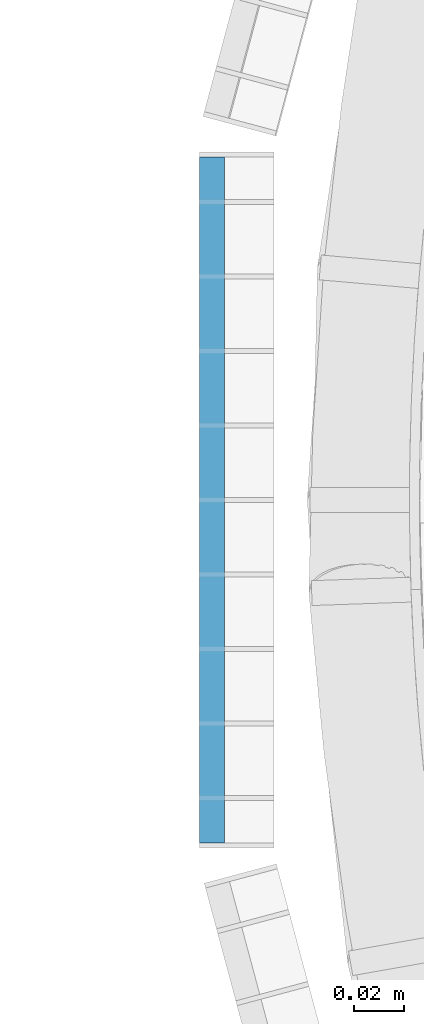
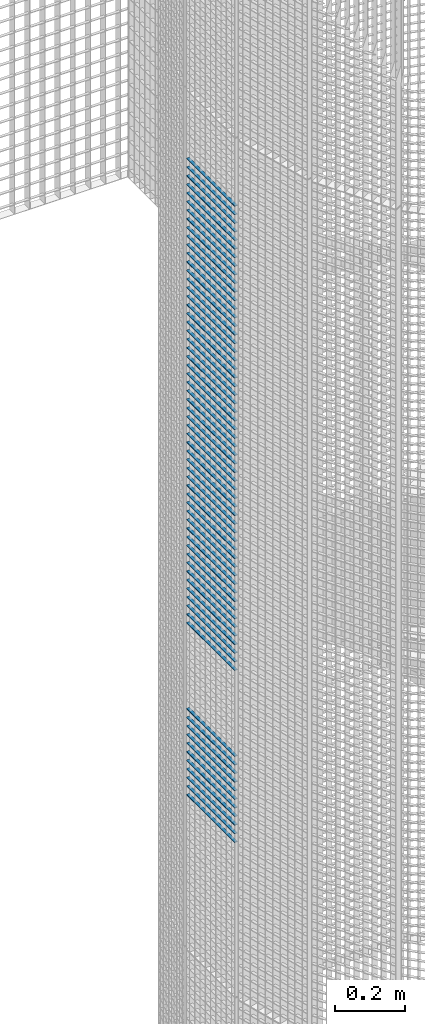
# One storey, part 211 of 1183: 66 beams, 1 element without a shape of its own.
"""IFC2X3 building model written with IfcOpenShell, lengths in millimetres."""

from ifc_helpers import new_model, si_unit, frame, origin_with_axes, origin_2d_with_axis, place, context, subcontext, project, spatial, rectangle, extrude, material, type_object, element, aggregate, save


model = new_model("IFC2X3")

# Units and contexts
model_context = context("Model", 3, precision=1e-05, world=origin_with_axes())
body_context = subcontext(model_context, "Body", "Model", "MODEL_VIEW")
ifc_project = project(units=[si_unit("LENGTHUNIT", "METRE", prefix="MILLI"), si_unit("AREAUNIT", "SQUARE_METRE"), si_unit("VOLUMEUNIT", "CUBIC_METRE"), si_unit("MASSUNIT", "GRAM", prefix="KILO"), si_unit("TIMEUNIT", "SECOND"), si_unit("PLANEANGLEUNIT", "RADIAN"), si_unit("SOLIDANGLEUNIT", "STERADIAN"), si_unit("THERMODYNAMICTEMPERATUREUNIT", "DEGREE_CELSIUS"), si_unit("LUMINOUSINTENSITYUNIT", "LUMEN")], contexts=[model_context])

# Site, building, storey
site_placement = place(None, origin_with_axes())
site = spatial("IfcSite", under=ifc_project, at=site_placement, Name="Undefined", CompositionType="ELEMENT")
building_placement = place(site_placement, origin_with_axes())
building = spatial("IfcBuilding", under=site, at=building_placement, Name="Undefined", CompositionType="ELEMENT")
storey_placement = place(building_placement, origin_with_axes())
storey = spatial("IfcBuildingStorey", under=building, at=storey_placement, Name="Undefined", CompositionType="ELEMENT", Elevation=0.0)

# Assembly, beams
assembly_placement = place(storey_placement, origin_with_axes())
assembly = element("IfcElementAssembly", 1, at=assembly_placement, inside=storey, Name="BORDURE", AssemblyPlace="NOTDEFINED", PredefinedType="NOTDEFINED")
ifc_material = material(Name="STEEL/S235JR")
beam_type = type_object("IfcBeamType", Name="PL2*10", PredefinedType="NOTDEFINED")
beam_1_placement = place(assembly_placement, frame((-1113.47999999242, 137.996003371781, 5760.0), z_axis=(-1.0, 0.0, 0.0), x_axis=(0.0, -1.0, 0.0)))
beam_1 = element("IfcBeam", 2, at=beam_1_placement, type_object=beam_type, material=ifc_material, Name="ENTRETOISE", context=body_context, shape_type="SweptSolid", body=[
    extrude(rectangle(XDim=2.0, YDim=10.0, at=origin_2d_with_axis()), frame((275.999999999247, 9.09494701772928e-13, 1.53210777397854e-14), z_axis=(-1.0, 0.0, 0.0), x_axis=(0.0, -1.0, 0.0)), (0.0, 0.0, 1.0), 276.0),
])
beam_2_placement = place(assembly_placement, frame((-1113.47999999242, 137.996003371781, 5730.0), z_axis=(-1.0, 0.0, 0.0), x_axis=(0.0, -1.0, 0.0)))
beam_2 = element("IfcBeam", 3, at=beam_2_placement, type_object=beam_type, material=ifc_material, Name="ENTRETOISE", context=body_context, shape_type="SweptSolid", body=[
    extrude(rectangle(XDim=2.0, YDim=10.0, at=origin_2d_with_axis()), frame((275.999999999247, 9.09494701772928e-13, 1.53210777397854e-14), z_axis=(-1.0, 0.0, 0.0), x_axis=(0.0, -1.0, 0.0)), (0.0, 0.0, 1.0), 276.0),
])
beam_3_placement = place(assembly_placement, frame((-1113.47999999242, 137.996003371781, 5700.0), z_axis=(-1.0, 0.0, 0.0), x_axis=(0.0, -1.0, 0.0)))
beam_3 = element("IfcBeam", 4, at=beam_3_placement, type_object=beam_type, material=ifc_material, Name="ENTRETOISE", context=body_context, shape_type="SweptSolid", body=[
    extrude(rectangle(XDim=2.0, YDim=10.0, at=origin_2d_with_axis()), frame((275.999999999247, 9.09494701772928e-13, 1.53210777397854e-14), z_axis=(-1.0, 0.0, 0.0), x_axis=(0.0, -1.0, 0.0)), (0.0, 0.0, 1.0), 276.0),
])
beam_4_placement = place(assembly_placement, frame((-1113.47999999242, 137.996003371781, 5670.0), z_axis=(-1.0, 0.0, 0.0), x_axis=(0.0, -1.0, 0.0)))
beam_4 = element("IfcBeam", 5, at=beam_4_placement, type_object=beam_type, material=ifc_material, Name="ENTRETOISE", context=body_context, shape_type="SweptSolid", body=[
    extrude(rectangle(XDim=2.0, YDim=10.0, at=origin_2d_with_axis()), frame((275.999999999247, 9.09494701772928e-13, 1.53210777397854e-14), z_axis=(-1.0, 0.0, 0.0), x_axis=(0.0, -1.0, 0.0)), (0.0, 0.0, 1.0), 276.0),
])
beam_5_placement = place(assembly_placement, frame((-1113.47999999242, 137.99600337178, 5640.0), z_axis=(-1.0, 0.0, 0.0), x_axis=(0.0, -1.0, 0.0)))
beam_5 = element("IfcBeam", 6, at=beam_5_placement, type_object=beam_type, material=ifc_material, Name="ENTRETOISE", context=body_context, shape_type="SweptSolid", body=[
    extrude(rectangle(XDim=2.0, YDim=10.0, at=origin_2d_with_axis()), frame((275.999999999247, 9.09494701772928e-13, 1.53210777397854e-14), z_axis=(-1.0, 0.0, 0.0), x_axis=(0.0, -1.0, 0.0)), (0.0, 0.0, 1.0), 276.0),
])
beam_6_placement = place(assembly_placement, frame((-1113.47999999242, 137.99600337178, 5610.0), z_axis=(-1.0, 0.0, 0.0), x_axis=(0.0, -1.0, 0.0)))
beam_6 = element("IfcBeam", 7, at=beam_6_placement, type_object=beam_type, material=ifc_material, Name="ENTRETOISE", context=body_context, shape_type="SweptSolid", body=[
    extrude(rectangle(XDim=2.0, YDim=10.0, at=origin_2d_with_axis()), frame((275.999999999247, 9.09494701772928e-13, 1.53210777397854e-14), z_axis=(-1.0, 0.0, 0.0), x_axis=(0.0, -1.0, 0.0)), (0.0, 0.0, 1.0), 276.0),
])
beam_7_placement = place(assembly_placement, frame((-1113.47999999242, 137.99600337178, 5580.0), z_axis=(-1.0, 0.0, 0.0), x_axis=(0.0, -1.0, 0.0)))
beam_7 = element("IfcBeam", 8, at=beam_7_placement, type_object=beam_type, material=ifc_material, Name="ENTRETOISE", context=body_context, shape_type="SweptSolid", body=[
    extrude(rectangle(XDim=2.0, YDim=10.0, at=origin_2d_with_axis()), frame((275.999999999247, 9.09494701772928e-13, 1.53210777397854e-14), z_axis=(-1.0, 0.0, 0.0), x_axis=(0.0, -1.0, 0.0)), (0.0, 0.0, 1.0), 276.0),
])
beam_8_placement = place(assembly_placement, frame((-1113.47999999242, 137.99600337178, 5550.0), z_axis=(-1.0, 0.0, 0.0), x_axis=(0.0, -1.0, 0.0)))
beam_8 = element("IfcBeam", 9, at=beam_8_placement, type_object=beam_type, material=ifc_material, Name="ENTRETOISE", context=body_context, shape_type="SweptSolid", body=[
    extrude(rectangle(XDim=2.0, YDim=10.0, at=origin_2d_with_axis()), frame((275.999999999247, 9.09494701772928e-13, 1.53210777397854e-14), z_axis=(-1.0, 0.0, 0.0), x_axis=(0.0, -1.0, 0.0)), (0.0, 0.0, 1.0), 276.0),
])
beam_9_placement = place(assembly_placement, frame((-1113.47999999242, 137.99600337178, 5520.0), z_axis=(-1.0, 0.0, 0.0), x_axis=(0.0, -1.0, 0.0)))
beam_9 = element("IfcBeam", 10, at=beam_9_placement, type_object=beam_type, material=ifc_material, Name="ENTRETOISE", context=body_context, shape_type="SweptSolid", body=[
    extrude(rectangle(XDim=2.0, YDim=10.0, at=origin_2d_with_axis()), frame((275.999999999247, 9.09494701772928e-13, 1.53210777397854e-14), z_axis=(-1.0, 0.0, 0.0), x_axis=(0.0, -1.0, 0.0)), (0.0, 0.0, 1.0), 276.0),
])
beam_10_placement = place(assembly_placement, frame((-1113.47999999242, 137.99600337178, 5490.0), z_axis=(-1.0, 0.0, 0.0), x_axis=(0.0, -1.0, 0.0)))
beam_10 = element("IfcBeam", 11, at=beam_10_placement, type_object=beam_type, material=ifc_material, Name="ENTRETOISE", context=body_context, shape_type="SweptSolid", body=[
    extrude(rectangle(XDim=2.0, YDim=10.0, at=origin_2d_with_axis()), frame((275.999999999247, 9.09494701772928e-13, 1.53210777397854e-14), z_axis=(-1.0, 0.0, 0.0), x_axis=(0.0, -1.0, 0.0)), (0.0, 0.0, 1.0), 276.0),
])
beam_11_placement = place(assembly_placement, frame((-1113.47999999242, 137.99600337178, 5460.0), z_axis=(-1.0, 0.0, 0.0), x_axis=(0.0, -1.0, 0.0)))
beam_11 = element("IfcBeam", 12, at=beam_11_placement, type_object=beam_type, material=ifc_material, Name="ENTRETOISE", context=body_context, shape_type="SweptSolid", body=[
    extrude(rectangle(XDim=2.0, YDim=10.0, at=origin_2d_with_axis()), frame((275.999999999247, 9.09494701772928e-13, 1.53210777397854e-14), z_axis=(-1.0, 0.0, 0.0), x_axis=(0.0, -1.0, 0.0)), (0.0, 0.0, 1.0), 276.0),
])
beam_12_placement = place(assembly_placement, frame((-1113.47999999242, 137.99600337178, 5430.0), z_axis=(-1.0, 0.0, 0.0), x_axis=(0.0, -1.0, 0.0)))
beam_12 = element("IfcBeam", 13, at=beam_12_placement, type_object=beam_type, material=ifc_material, Name="ENTRETOISE", context=body_context, shape_type="SweptSolid", body=[
    extrude(rectangle(XDim=2.0, YDim=10.0, at=origin_2d_with_axis()), frame((275.999999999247, 9.09494701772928e-13, 1.53210777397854e-14), z_axis=(-1.0, 0.0, 0.0), x_axis=(0.0, -1.0, 0.0)), (0.0, 0.0, 1.0), 276.0),
])
beam_13_placement = place(assembly_placement, frame((-1113.47999999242, 137.99600337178, 5400.0), z_axis=(-1.0, 0.0, 0.0), x_axis=(0.0, -1.0, 0.0)))
beam_13 = element("IfcBeam", 14, at=beam_13_placement, type_object=beam_type, material=ifc_material, Name="ENTRETOISE", context=body_context, shape_type="SweptSolid", body=[
    extrude(rectangle(XDim=2.0, YDim=10.0, at=origin_2d_with_axis()), frame((275.999999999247, 9.09494701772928e-13, 1.53210777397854e-14), z_axis=(-1.0, 0.0, 0.0), x_axis=(0.0, -1.0, 0.0)), (0.0, 0.0, 1.0), 276.0),
])
beam_14_placement = place(assembly_placement, frame((-1113.47999999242, 137.996003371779, 5370.0), z_axis=(-1.0, 0.0, 0.0), x_axis=(0.0, -1.0, 0.0)))
beam_14 = element("IfcBeam", 15, at=beam_14_placement, type_object=beam_type, material=ifc_material, Name="ENTRETOISE", context=body_context, shape_type="SweptSolid", body=[
    extrude(rectangle(XDim=2.0, YDim=10.0, at=origin_2d_with_axis()), frame((275.999999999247, 9.09494701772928e-13, 1.53210777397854e-14), z_axis=(-1.0, 0.0, 0.0), x_axis=(0.0, -1.0, 0.0)), (0.0, 0.0, 1.0), 276.0),
])
beam_15_placement = place(assembly_placement, frame((-1113.47999999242, 137.996003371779, 5340.0), z_axis=(-1.0, 0.0, 0.0), x_axis=(0.0, -1.0, 0.0)))
beam_15 = element("IfcBeam", 16, at=beam_15_placement, type_object=beam_type, material=ifc_material, Name="ENTRETOISE", context=body_context, shape_type="SweptSolid", body=[
    extrude(rectangle(XDim=2.0, YDim=10.0, at=origin_2d_with_axis()), frame((275.999999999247, 9.09494701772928e-13, 1.53210777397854e-14), z_axis=(-1.0, 0.0, 0.0), x_axis=(0.0, -1.0, 0.0)), (0.0, 0.0, 1.0), 276.0),
])
beam_16_placement = place(assembly_placement, frame((-1113.47999999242, 137.996003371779, 5310.0), z_axis=(-1.0, 0.0, 0.0), x_axis=(0.0, -1.0, 0.0)))
beam_16 = element("IfcBeam", 17, at=beam_16_placement, type_object=beam_type, material=ifc_material, Name="ENTRETOISE", context=body_context, shape_type="SweptSolid", body=[
    extrude(rectangle(XDim=2.0, YDim=10.0, at=origin_2d_with_axis()), frame((275.999999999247, 9.09494701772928e-13, 1.53210777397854e-14), z_axis=(-1.0, 0.0, 0.0), x_axis=(0.0, -1.0, 0.0)), (0.0, 0.0, 1.0), 276.0),
])
beam_17_placement = place(assembly_placement, frame((-1113.47999999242, 137.996003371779, 5280.0), z_axis=(-1.0, 0.0, 0.0), x_axis=(0.0, -1.0, 0.0)))
beam_17 = element("IfcBeam", 18, at=beam_17_placement, type_object=beam_type, material=ifc_material, Name="ENTRETOISE", context=body_context, shape_type="SweptSolid", body=[
    extrude(rectangle(XDim=2.0, YDim=10.0, at=origin_2d_with_axis()), frame((275.999999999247, 9.09494701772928e-13, 1.53210777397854e-14), z_axis=(-1.0, 0.0, 0.0), x_axis=(0.0, -1.0, 0.0)), (0.0, 0.0, 1.0), 276.0),
])
beam_18_placement = place(assembly_placement, frame((-1113.47999999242, 137.996003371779, 5250.0), z_axis=(-1.0, 0.0, 0.0), x_axis=(0.0, -1.0, 0.0)))
beam_18 = element("IfcBeam", 19, at=beam_18_placement, type_object=beam_type, material=ifc_material, Name="ENTRETOISE", context=body_context, shape_type="SweptSolid", body=[
    extrude(rectangle(XDim=2.0, YDim=10.0, at=origin_2d_with_axis()), frame((275.999999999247, 9.09494701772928e-13, 1.53210777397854e-14), z_axis=(-1.0, 0.0, 0.0), x_axis=(0.0, -1.0, 0.0)), (0.0, 0.0, 1.0), 276.0),
])
beam_19_placement = place(assembly_placement, frame((-1113.47999999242, 137.996003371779, 5220.0), z_axis=(-1.0, 0.0, 0.0), x_axis=(0.0, -1.0, 0.0)))
beam_19 = element("IfcBeam", 20, at=beam_19_placement, type_object=beam_type, material=ifc_material, Name="ENTRETOISE", context=body_context, shape_type="SweptSolid", body=[
    extrude(rectangle(XDim=2.0, YDim=10.0, at=origin_2d_with_axis()), frame((275.999999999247, 9.09494701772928e-13, 1.53210777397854e-14), z_axis=(-1.0, 0.0, 0.0), x_axis=(0.0, -1.0, 0.0)), (0.0, 0.0, 1.0), 276.0),
])
beam_20_placement = place(assembly_placement, frame((-1113.47999999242, 137.996003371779, 5190.0), z_axis=(-1.0, 0.0, 0.0), x_axis=(0.0, -1.0, 0.0)))
beam_20 = element("IfcBeam", 21, at=beam_20_placement, type_object=beam_type, material=ifc_material, Name="ENTRETOISE", context=body_context, shape_type="SweptSolid", body=[
    extrude(rectangle(XDim=2.0, YDim=10.0, at=origin_2d_with_axis()), frame((275.999999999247, 9.09494701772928e-13, 1.53210777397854e-14), z_axis=(-1.0, 0.0, 0.0), x_axis=(0.0, -1.0, 0.0)), (0.0, 0.0, 1.0), 276.0),
])
beam_21_placement = place(assembly_placement, frame((-1113.47999999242, 137.996003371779, 5160.0), z_axis=(-1.0, 0.0, 0.0), x_axis=(0.0, -1.0, 0.0)))
beam_21 = element("IfcBeam", 22, at=beam_21_placement, type_object=beam_type, material=ifc_material, Name="ENTRETOISE", context=body_context, shape_type="SweptSolid", body=[
    extrude(rectangle(XDim=2.0, YDim=10.0, at=origin_2d_with_axis()), frame((275.999999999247, 9.09494701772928e-13, 1.53210777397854e-14), z_axis=(-1.0, 0.0, 0.0), x_axis=(0.0, -1.0, 0.0)), (0.0, 0.0, 1.0), 276.0),
])
beam_22_placement = place(assembly_placement, frame((-1113.47999999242, 137.996003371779, 5130.0), z_axis=(-1.0, 0.0, 0.0), x_axis=(0.0, -1.0, 0.0)))
beam_22 = element("IfcBeam", 23, at=beam_22_placement, type_object=beam_type, material=ifc_material, Name="ENTRETOISE", context=body_context, shape_type="SweptSolid", body=[
    extrude(rectangle(XDim=2.0, YDim=10.0, at=origin_2d_with_axis()), frame((275.999999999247, 9.09494701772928e-13, 1.53210777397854e-14), z_axis=(-1.0, 0.0, 0.0), x_axis=(0.0, -1.0, 0.0)), (0.0, 0.0, 1.0), 276.0),
])
beam_23_placement = place(assembly_placement, frame((-1113.47999999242, 137.996003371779, 5100.0), z_axis=(-1.0, 0.0, 0.0), x_axis=(0.0, -1.0, 0.0)))
beam_23 = element("IfcBeam", 24, at=beam_23_placement, type_object=beam_type, material=ifc_material, Name="ENTRETOISE", context=body_context, shape_type="SweptSolid", body=[
    extrude(rectangle(XDim=2.0, YDim=10.0, at=origin_2d_with_axis()), frame((275.999999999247, 9.09494701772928e-13, 1.53210777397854e-14), z_axis=(-1.0, 0.0, 0.0), x_axis=(0.0, -1.0, 0.0)), (0.0, 0.0, 1.0), 276.0),
])
beam_24_placement = place(assembly_placement, frame((-1113.47999999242, 137.996003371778, 5070.0), z_axis=(-1.0, 0.0, 0.0), x_axis=(0.0, -1.0, 0.0)))
beam_24 = element("IfcBeam", 25, at=beam_24_placement, type_object=beam_type, material=ifc_material, Name="ENTRETOISE", context=body_context, shape_type="SweptSolid", body=[
    extrude(rectangle(XDim=2.0, YDim=10.0, at=origin_2d_with_axis()), frame((275.999999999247, 9.09494701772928e-13, 1.53210777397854e-14), z_axis=(-1.0, 0.0, 0.0), x_axis=(0.0, -1.0, 0.0)), (0.0, 0.0, 1.0), 276.0),
])
beam_25_placement = place(assembly_placement, frame((-1113.47999999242, 137.996003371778, 5040.0), z_axis=(-1.0, 0.0, 0.0), x_axis=(0.0, -1.0, 0.0)))
beam_25 = element("IfcBeam", 26, at=beam_25_placement, type_object=beam_type, material=ifc_material, Name="ENTRETOISE", context=body_context, shape_type="SweptSolid", body=[
    extrude(rectangle(XDim=2.0, YDim=10.0, at=origin_2d_with_axis()), frame((275.999999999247, 9.09494701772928e-13, 1.53210777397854e-14), z_axis=(-1.0, 0.0, 0.0), x_axis=(0.0, -1.0, 0.0)), (0.0, 0.0, 1.0), 276.0),
])
beam_26_placement = place(assembly_placement, frame((-1113.47999999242, 137.996003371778, 5010.0), z_axis=(-1.0, 0.0, 0.0), x_axis=(0.0, -1.0, 0.0)))
beam_26 = element("IfcBeam", 27, at=beam_26_placement, type_object=beam_type, material=ifc_material, Name="ENTRETOISE", context=body_context, shape_type="SweptSolid", body=[
    extrude(rectangle(XDim=2.0, YDim=10.0, at=origin_2d_with_axis()), frame((275.999999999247, 9.09494701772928e-13, 1.53210777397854e-14), z_axis=(-1.0, 0.0, 0.0), x_axis=(0.0, -1.0, 0.0)), (0.0, 0.0, 1.0), 276.0),
])
beam_27_placement = place(assembly_placement, frame((-1113.47999999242, 137.996003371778, 4980.0), z_axis=(-1.0, 0.0, 0.0), x_axis=(0.0, -1.0, 0.0)))
beam_27 = element("IfcBeam", 28, at=beam_27_placement, type_object=beam_type, material=ifc_material, Name="ENTRETOISE", context=body_context, shape_type="SweptSolid", body=[
    extrude(rectangle(XDim=2.0, YDim=10.0, at=origin_2d_with_axis()), frame((275.999999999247, 9.09494701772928e-13, 1.53210777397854e-14), z_axis=(-1.0, 0.0, 0.0), x_axis=(0.0, -1.0, 0.0)), (0.0, 0.0, 1.0), 276.0),
])
beam_28_placement = place(assembly_placement, frame((-1113.47999999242, 137.996003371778, 4950.0), z_axis=(-1.0, 0.0, 0.0), x_axis=(0.0, -1.0, 0.0)))
beam_28 = element("IfcBeam", 29, at=beam_28_placement, type_object=beam_type, material=ifc_material, Name="ENTRETOISE", context=body_context, shape_type="SweptSolid", body=[
    extrude(rectangle(XDim=2.0, YDim=10.0, at=origin_2d_with_axis()), frame((275.999999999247, 9.09494701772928e-13, 1.53210777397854e-14), z_axis=(-1.0, 0.0, 0.0), x_axis=(0.0, -1.0, 0.0)), (0.0, 0.0, 1.0), 276.0),
])
beam_29_placement = place(assembly_placement, frame((-1113.47999999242, 137.996003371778, 4920.0), z_axis=(-1.0, 0.0, 0.0), x_axis=(0.0, -1.0, 0.0)))
beam_29 = element("IfcBeam", 30, at=beam_29_placement, type_object=beam_type, material=ifc_material, Name="ENTRETOISE", context=body_context, shape_type="SweptSolid", body=[
    extrude(rectangle(XDim=2.0, YDim=10.0, at=origin_2d_with_axis()), frame((275.999999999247, 9.09494701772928e-13, 1.53210777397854e-14), z_axis=(-1.0, 0.0, 0.0), x_axis=(0.0, -1.0, 0.0)), (0.0, 0.0, 1.0), 276.0),
])
beam_30_placement = place(assembly_placement, frame((-1113.47999999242, 137.996003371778, 4890.0), z_axis=(-1.0, 0.0, 0.0), x_axis=(0.0, -1.0, 0.0)))
beam_30 = element("IfcBeam", 31, at=beam_30_placement, type_object=beam_type, material=ifc_material, Name="ENTRETOISE", context=body_context, shape_type="SweptSolid", body=[
    extrude(rectangle(XDim=2.0, YDim=10.0, at=origin_2d_with_axis()), frame((275.999999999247, 9.09494701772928e-13, 1.53210777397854e-14), z_axis=(-1.0, 0.0, 0.0), x_axis=(0.0, -1.0, 0.0)), (0.0, 0.0, 1.0), 276.0),
])
beam_31_placement = place(assembly_placement, frame((-1113.47999999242, 137.996003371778, 4860.0), z_axis=(-1.0, 0.0, 0.0), x_axis=(0.0, -1.0, 0.0)))
beam_31 = element("IfcBeam", 32, at=beam_31_placement, type_object=beam_type, material=ifc_material, Name="ENTRETOISE", context=body_context, shape_type="SweptSolid", body=[
    extrude(rectangle(XDim=2.0, YDim=10.0, at=origin_2d_with_axis()), frame((275.999999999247, 9.09494701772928e-13, 1.53210777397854e-14), z_axis=(-1.0, 0.0, 0.0), x_axis=(0.0, -1.0, 0.0)), (0.0, 0.0, 1.0), 276.0),
])
beam_32_placement = place(assembly_placement, frame((-1113.47999999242, 137.996003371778, 4830.0), z_axis=(-1.0, 0.0, 0.0), x_axis=(0.0, -1.0, 0.0)))
beam_32 = element("IfcBeam", 33, at=beam_32_placement, type_object=beam_type, material=ifc_material, Name="ENTRETOISE", context=body_context, shape_type="SweptSolid", body=[
    extrude(rectangle(XDim=2.0, YDim=10.0, at=origin_2d_with_axis()), frame((275.999999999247, 9.09494701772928e-13, 1.53210777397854e-14), z_axis=(-1.0, 0.0, 0.0), x_axis=(0.0, -1.0, 0.0)), (0.0, 0.0, 1.0), 276.0),
])
beam_33_placement = place(assembly_placement, frame((-1113.47999999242, 137.996003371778, 4800.0), z_axis=(-1.0, 0.0, 0.0), x_axis=(0.0, -1.0, 0.0)))
beam_33 = element("IfcBeam", 34, at=beam_33_placement, type_object=beam_type, material=ifc_material, Name="ENTRETOISE", context=body_context, shape_type="SweptSolid", body=[
    extrude(rectangle(XDim=2.0, YDim=10.0, at=origin_2d_with_axis()), frame((275.999999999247, 9.09494701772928e-13, 1.53210777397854e-14), z_axis=(-1.0, 0.0, 0.0), x_axis=(0.0, -1.0, 0.0)), (0.0, 0.0, 1.0), 276.0),
])
beam_34_placement = place(assembly_placement, frame((-1113.47999999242, 137.996003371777, 4770.0), z_axis=(-1.0, 0.0, 0.0), x_axis=(0.0, -1.0, 0.0)))
beam_34 = element("IfcBeam", 35, at=beam_34_placement, type_object=beam_type, material=ifc_material, Name="ENTRETOISE", context=body_context, shape_type="SweptSolid", body=[
    extrude(rectangle(XDim=2.0, YDim=10.0, at=origin_2d_with_axis()), frame((275.999999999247, 9.09494701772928e-13, 1.53210777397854e-14), z_axis=(-1.0, 0.0, 0.0), x_axis=(0.0, -1.0, 0.0)), (0.0, 0.0, 1.0), 276.0),
])
beam_35_placement = place(assembly_placement, frame((-1113.47999999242, 137.996003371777, 4740.0), z_axis=(-1.0, 0.0, 0.0), x_axis=(0.0, -1.0, 0.0)))
beam_35 = element("IfcBeam", 36, at=beam_35_placement, type_object=beam_type, material=ifc_material, Name="ENTRETOISE", context=body_context, shape_type="SweptSolid", body=[
    extrude(rectangle(XDim=2.0, YDim=10.0, at=origin_2d_with_axis()), frame((275.999999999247, 9.09494701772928e-13, 1.53210777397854e-14), z_axis=(-1.0, 0.0, 0.0), x_axis=(0.0, -1.0, 0.0)), (0.0, 0.0, 1.0), 276.0),
])
beam_36_placement = place(assembly_placement, frame((-1113.47999999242, 137.996003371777, 4710.0), z_axis=(-1.0, 0.0, 0.0), x_axis=(0.0, -1.0, 0.0)))
beam_36 = element("IfcBeam", 37, at=beam_36_placement, type_object=beam_type, material=ifc_material, Name="ENTRETOISE", context=body_context, shape_type="SweptSolid", body=[
    extrude(rectangle(XDim=2.0, YDim=10.0, at=origin_2d_with_axis()), frame((275.999999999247, 9.09494701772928e-13, 1.53210777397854e-14), z_axis=(-1.0, 0.0, 0.0), x_axis=(0.0, -1.0, 0.0)), (0.0, 0.0, 1.0), 276.0),
])
beam_37_placement = place(assembly_placement, frame((-1113.47999999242, 137.996003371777, 4680.0), z_axis=(-1.0, 0.0, 0.0), x_axis=(0.0, -1.0, 0.0)))
beam_37 = element("IfcBeam", 38, at=beam_37_placement, type_object=beam_type, material=ifc_material, Name="ENTRETOISE", context=body_context, shape_type="SweptSolid", body=[
    extrude(rectangle(XDim=2.0, YDim=10.0, at=origin_2d_with_axis()), frame((275.999999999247, 9.09494701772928e-13, 1.53210777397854e-14), z_axis=(-1.0, 0.0, 0.0), x_axis=(0.0, -1.0, 0.0)), (0.0, 0.0, 1.0), 276.0),
])
beam_38_placement = place(assembly_placement, frame((-1113.47999999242, 137.996003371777, 4650.0), z_axis=(-1.0, 0.0, 0.0), x_axis=(0.0, -1.0, 0.0)))
beam_38 = element("IfcBeam", 39, at=beam_38_placement, type_object=beam_type, material=ifc_material, Name="ENTRETOISE", context=body_context, shape_type="SweptSolid", body=[
    extrude(rectangle(XDim=2.0, YDim=10.0, at=origin_2d_with_axis()), frame((275.999999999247, 9.09494701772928e-13, 1.53210777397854e-14), z_axis=(-1.0, 0.0, 0.0), x_axis=(0.0, -1.0, 0.0)), (0.0, 0.0, 1.0), 276.0),
])
beam_39_placement = place(assembly_placement, frame((-1113.47999999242, 137.996003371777, 4620.0), z_axis=(-1.0, 0.0, 0.0), x_axis=(0.0, -1.0, 0.0)))
beam_39 = element("IfcBeam", 40, at=beam_39_placement, type_object=beam_type, material=ifc_material, Name="ENTRETOISE", context=body_context, shape_type="SweptSolid", body=[
    extrude(rectangle(XDim=2.0, YDim=10.0, at=origin_2d_with_axis()), frame((275.999999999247, 9.09494701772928e-13, 1.53210777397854e-14), z_axis=(-1.0, 0.0, 0.0), x_axis=(0.0, -1.0, 0.0)), (0.0, 0.0, 1.0), 276.0),
])
beam_40_placement = place(assembly_placement, frame((-1113.47999999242, 137.996003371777, 4590.0), z_axis=(-1.0, 0.0, 0.0), x_axis=(0.0, -1.0, 0.0)))
beam_40 = element("IfcBeam", 41, at=beam_40_placement, type_object=beam_type, material=ifc_material, Name="ENTRETOISE", context=body_context, shape_type="SweptSolid", body=[
    extrude(rectangle(XDim=2.0, YDim=10.0, at=origin_2d_with_axis()), frame((275.999999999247, 9.09494701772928e-13, 1.53210777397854e-14), z_axis=(-1.0, 0.0, 0.0), x_axis=(0.0, -1.0, 0.0)), (0.0, 0.0, 1.0), 276.0),
])
beam_41_placement = place(assembly_placement, frame((-1113.47999999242, 137.996003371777, 4560.0), z_axis=(-1.0, 0.0, 0.0), x_axis=(0.0, -1.0, 0.0)))
beam_41 = element("IfcBeam", 42, at=beam_41_placement, type_object=beam_type, material=ifc_material, Name="ENTRETOISE", context=body_context, shape_type="SweptSolid", body=[
    extrude(rectangle(XDim=2.0, YDim=10.0, at=origin_2d_with_axis()), frame((275.999999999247, 9.09494701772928e-13, 1.53210777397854e-14), z_axis=(-1.0, 0.0, 0.0), x_axis=(0.0, -1.0, 0.0)), (0.0, 0.0, 1.0), 276.0),
])
beam_42_placement = place(assembly_placement, frame((-1113.47999999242, 137.996003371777, 4530.0), z_axis=(-1.0, 0.0, 0.0), x_axis=(0.0, -1.0, 0.0)))
beam_42 = element("IfcBeam", 43, at=beam_42_placement, type_object=beam_type, material=ifc_material, Name="ENTRETOISE", context=body_context, shape_type="SweptSolid", body=[
    extrude(rectangle(XDim=2.0, YDim=10.0, at=origin_2d_with_axis()), frame((275.999999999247, 9.09494701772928e-13, 1.53210777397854e-14), z_axis=(-1.0, 0.0, 0.0), x_axis=(0.0, -1.0, 0.0)), (0.0, 0.0, 1.0), 276.0),
])
beam_43_placement = place(assembly_placement, frame((-1113.47999999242, 137.996003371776, 4500.0), z_axis=(-1.0, 0.0, 0.0), x_axis=(0.0, -1.0, 0.0)))
beam_43 = element("IfcBeam", 44, at=beam_43_placement, type_object=beam_type, material=ifc_material, Name="ENTRETOISE", context=body_context, shape_type="SweptSolid", body=[
    extrude(rectangle(XDim=2.0, YDim=10.0, at=origin_2d_with_axis()), frame((275.999999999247, 9.09494701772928e-13, 1.53210777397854e-14), z_axis=(-1.0, 0.0, 0.0), x_axis=(0.0, -1.0, 0.0)), (0.0, 0.0, 1.0), 276.0),
])
beam_44_placement = place(assembly_placement, frame((-1113.47999999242, 137.996003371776, 4470.0), z_axis=(-1.0, 0.0, 0.0), x_axis=(0.0, -1.0, 0.0)))
beam_44 = element("IfcBeam", 45, at=beam_44_placement, type_object=beam_type, material=ifc_material, Name="ENTRETOISE", context=body_context, shape_type="SweptSolid", body=[
    extrude(rectangle(XDim=2.0, YDim=10.0, at=origin_2d_with_axis()), frame((275.999999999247, 9.09494701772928e-13, 1.53210777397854e-14), z_axis=(-1.0, 0.0, 0.0), x_axis=(0.0, -1.0, 0.0)), (0.0, 0.0, 1.0), 276.0),
])
beam_45_placement = place(assembly_placement, frame((-1113.47999999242, 137.996003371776, 4440.0), z_axis=(-1.0, 0.0, 0.0), x_axis=(0.0, -1.0, 0.0)))
beam_45 = element("IfcBeam", 46, at=beam_45_placement, type_object=beam_type, material=ifc_material, Name="ENTRETOISE", context=body_context, shape_type="SweptSolid", body=[
    extrude(rectangle(XDim=2.0, YDim=10.0, at=origin_2d_with_axis()), frame((275.999999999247, 9.09494701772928e-13, 1.53210777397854e-14), z_axis=(-1.0, 0.0, 0.0), x_axis=(0.0, -1.0, 0.0)), (0.0, 0.0, 1.0), 276.0),
])
beam_46_placement = place(assembly_placement, frame((-1113.47999999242, 137.996003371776, 4410.0), z_axis=(-1.0, 0.0, 0.0), x_axis=(0.0, -1.0, 0.0)))
beam_46 = element("IfcBeam", 47, at=beam_46_placement, type_object=beam_type, material=ifc_material, Name="ENTRETOISE", context=body_context, shape_type="SweptSolid", body=[
    extrude(rectangle(XDim=2.0, YDim=10.0, at=origin_2d_with_axis()), frame((275.999999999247, 9.09494701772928e-13, 1.53210777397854e-14), z_axis=(-1.0, 0.0, 0.0), x_axis=(0.0, -1.0, 0.0)), (0.0, 0.0, 1.0), 276.0),
])
beam_47_placement = place(assembly_placement, frame((-1113.47999999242, 137.996003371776, 4380.0), z_axis=(-1.0, 0.0, 0.0), x_axis=(0.0, -1.0, 0.0)))
beam_47 = element("IfcBeam", 48, at=beam_47_placement, type_object=beam_type, material=ifc_material, Name="ENTRETOISE", context=body_context, shape_type="SweptSolid", body=[
    extrude(rectangle(XDim=2.0, YDim=10.0, at=origin_2d_with_axis()), frame((275.999999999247, 9.09494701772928e-13, 1.53210777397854e-14), z_axis=(-1.0, 0.0, 0.0), x_axis=(0.0, -1.0, 0.0)), (0.0, 0.0, 1.0), 276.0),
])
beam_48_placement = place(assembly_placement, frame((-1113.47999999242, 137.996003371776, 4350.0), z_axis=(-1.0, 0.0, 0.0), x_axis=(0.0, -1.0, 0.0)))
beam_48 = element("IfcBeam", 49, at=beam_48_placement, type_object=beam_type, material=ifc_material, Name="ENTRETOISE", context=body_context, shape_type="SweptSolid", body=[
    extrude(rectangle(XDim=2.0, YDim=10.0, at=origin_2d_with_axis()), frame((275.999999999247, 9.09494701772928e-13, 1.53210777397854e-14), z_axis=(-1.0, 0.0, 0.0), x_axis=(0.0, -1.0, 0.0)), (0.0, 0.0, 1.0), 276.0),
])
beam_49_placement = place(assembly_placement, frame((-1113.47999999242, 137.996003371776, 4320.0), z_axis=(-1.0, 0.0, 0.0), x_axis=(0.0, -1.0, 0.0)))
beam_49 = element("IfcBeam", 50, at=beam_49_placement, type_object=beam_type, material=ifc_material, Name="ENTRETOISE", context=body_context, shape_type="SweptSolid", body=[
    extrude(rectangle(XDim=2.0, YDim=10.0, at=origin_2d_with_axis()), frame((275.999999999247, 9.09494701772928e-13, 1.53210777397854e-14), z_axis=(-1.0, 0.0, 0.0), x_axis=(0.0, -1.0, 0.0)), (0.0, 0.0, 1.0), 276.0),
])
beam_50_placement = place(assembly_placement, frame((-1113.47999999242, 137.996003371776, 4290.0), z_axis=(-1.0, 0.0, 0.0), x_axis=(0.0, -1.0, 0.0)))
beam_50 = element("IfcBeam", 51, at=beam_50_placement, type_object=beam_type, material=ifc_material, Name="ENTRETOISE", context=body_context, shape_type="SweptSolid", body=[
    extrude(rectangle(XDim=2.0, YDim=10.0, at=origin_2d_with_axis()), frame((275.999999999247, 9.09494701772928e-13, 1.53210777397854e-14), z_axis=(-1.0, 0.0, 0.0), x_axis=(0.0, -1.0, 0.0)), (0.0, 0.0, 1.0), 276.0),
])
beam_51_placement = place(assembly_placement, frame((-1113.47999999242, 137.996003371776, 4260.0), z_axis=(-1.0, 0.0, 0.0), x_axis=(0.0, -1.0, 0.0)))
beam_51 = element("IfcBeam", 52, at=beam_51_placement, type_object=beam_type, material=ifc_material, Name="ENTRETOISE", context=body_context, shape_type="SweptSolid", body=[
    extrude(rectangle(XDim=2.0, YDim=10.0, at=origin_2d_with_axis()), frame((275.999999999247, 9.09494701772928e-13, 1.53210777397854e-14), z_axis=(-1.0, 0.0, 0.0), x_axis=(0.0, -1.0, 0.0)), (0.0, 0.0, 1.0), 276.0),
])
beam_52_placement = place(assembly_placement, frame((-1113.47999999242, 137.996003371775, 4230.0), z_axis=(-1.0, 0.0, 0.0), x_axis=(0.0, -1.0, 0.0)))
beam_52 = element("IfcBeam", 53, at=beam_52_placement, type_object=beam_type, material=ifc_material, Name="ENTRETOISE", context=body_context, shape_type="SweptSolid", body=[
    extrude(rectangle(XDim=2.0, YDim=10.0, at=origin_2d_with_axis()), frame((275.999999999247, 9.09494701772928e-13, 1.53210777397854e-14), z_axis=(-1.0, 0.0, 0.0), x_axis=(0.0, -1.0, 0.0)), (0.0, 0.0, 1.0), 276.0),
])
beam_53_placement = place(assembly_placement, frame((-1113.47999999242, 137.996003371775, 4200.0), z_axis=(-1.0, 0.0, 0.0), x_axis=(0.0, -1.0, 0.0)))
beam_53 = element("IfcBeam", 54, at=beam_53_placement, type_object=beam_type, material=ifc_material, Name="ENTRETOISE", context=body_context, shape_type="SweptSolid", body=[
    extrude(rectangle(XDim=2.0, YDim=10.0, at=origin_2d_with_axis()), frame((275.999999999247, 9.09494701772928e-13, 1.53210777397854e-14), z_axis=(-1.0, 0.0, 0.0), x_axis=(0.0, -1.0, 0.0)), (0.0, 0.0, 1.0), 276.0),
])
beam_54_placement = place(assembly_placement, frame((-1113.47999999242, 137.996003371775, 4170.0), z_axis=(-1.0, 0.0, 0.0), x_axis=(0.0, -1.0, 0.0)))
beam_54 = element("IfcBeam", 55, at=beam_54_placement, type_object=beam_type, material=ifc_material, Name="ENTRETOISE", context=body_context, shape_type="SweptSolid", body=[
    extrude(rectangle(XDim=2.0, YDim=10.0, at=origin_2d_with_axis()), frame((275.999999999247, 9.09494701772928e-13, 1.53210777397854e-14), z_axis=(-1.0, 0.0, 0.0), x_axis=(0.0, -1.0, 0.0)), (0.0, 0.0, 1.0), 276.0),
])
beam_55_placement = place(assembly_placement, frame((-1113.47999999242, 137.996003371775, 4140.0), z_axis=(-1.0, 0.0, 0.0), x_axis=(0.0, -1.0, 0.0)))
beam_55 = element("IfcBeam", 56, at=beam_55_placement, type_object=beam_type, material=ifc_material, Name="ENTRETOISE", context=body_context, shape_type="SweptSolid", body=[
    extrude(rectangle(XDim=2.0, YDim=10.0, at=origin_2d_with_axis()), frame((275.999999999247, 9.09494701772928e-13, 1.53210777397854e-14), z_axis=(-1.0, 0.0, 0.0), x_axis=(0.0, -1.0, 0.0)), (0.0, 0.0, 1.0), 276.0),
])
beam_56_placement = place(assembly_placement, frame((-1113.47999999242, 137.996003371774, 3720.0), z_axis=(-1.0, 0.0, 0.0), x_axis=(0.0, -1.0, 0.0)))
beam_56 = element("IfcBeam", 57, at=beam_56_placement, type_object=beam_type, material=ifc_material, Name="ENTRETOISE", context=body_context, shape_type="SweptSolid", body=[
    extrude(rectangle(XDim=2.0, YDim=10.0, at=origin_2d_with_axis()), frame((275.999999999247, 9.09494701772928e-13, 1.53210777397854e-14), z_axis=(-1.0, 0.0, 0.0), x_axis=(0.0, -1.0, 0.0)), (0.0, 0.0, 1.0), 276.0),
])
beam_57_placement = place(assembly_placement, frame((-1113.47999999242, 137.996003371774, 3690.0), z_axis=(-1.0, 0.0, 0.0), x_axis=(0.0, -1.0, 0.0)))
beam_57 = element("IfcBeam", 58, at=beam_57_placement, type_object=beam_type, material=ifc_material, Name="ENTRETOISE", context=body_context, shape_type="SweptSolid", body=[
    extrude(rectangle(XDim=2.0, YDim=10.0, at=origin_2d_with_axis()), frame((275.999999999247, 9.09494701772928e-13, 1.53210777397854e-14), z_axis=(-1.0, 0.0, 0.0), x_axis=(0.0, -1.0, 0.0)), (0.0, 0.0, 1.0), 276.0),
])
beam_58_placement = place(assembly_placement, frame((-1113.47999999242, 137.996003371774, 3750.0), z_axis=(-1.0, 0.0, 0.0), x_axis=(0.0, -1.0, 0.0)))
beam_58 = element("IfcBeam", 59, at=beam_58_placement, type_object=beam_type, material=ifc_material, Name="ENTRETOISE", context=body_context, shape_type="SweptSolid", body=[
    extrude(rectangle(XDim=2.0, YDim=10.0, at=origin_2d_with_axis()), frame((275.999999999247, 9.09494701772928e-13, 1.53210777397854e-14), z_axis=(-1.0, 0.0, 0.0), x_axis=(0.0, -1.0, 0.0)), (0.0, 0.0, 1.0), 276.0),
])
beam_59_placement = place(assembly_placement, frame((-1113.47999999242, 137.996003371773, 3660.0), z_axis=(-1.0, 0.0, 0.0), x_axis=(0.0, -1.0, 0.0)))
beam_59 = element("IfcBeam", 60, at=beam_59_placement, type_object=beam_type, material=ifc_material, Name="ENTRETOISE", context=body_context, shape_type="SweptSolid", body=[
    extrude(rectangle(XDim=2.0, YDim=10.0, at=origin_2d_with_axis()), frame((275.999999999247, 9.09494701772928e-13, 1.53210777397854e-14), z_axis=(-1.0, 0.0, 0.0), x_axis=(0.0, -1.0, 0.0)), (0.0, 0.0, 1.0), 276.0),
])
beam_60_placement = place(assembly_placement, frame((-1113.47999999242, 137.996003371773, 3630.0), z_axis=(-1.0, 0.0, 0.0), x_axis=(0.0, -1.0, 0.0)))
beam_60 = element("IfcBeam", 61, at=beam_60_placement, type_object=beam_type, material=ifc_material, Name="ENTRETOISE", context=body_context, shape_type="SweptSolid", body=[
    extrude(rectangle(XDim=2.0, YDim=10.0, at=origin_2d_with_axis()), frame((275.999999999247, 9.09494701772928e-13, 1.53210777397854e-14), z_axis=(-1.0, 0.0, 0.0), x_axis=(0.0, -1.0, 0.0)), (0.0, 0.0, 1.0), 276.0),
])
beam_61_placement = place(assembly_placement, frame((-1113.47999999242, 137.996003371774, 3780.0), z_axis=(-1.0, 0.0, 0.0), x_axis=(0.0, -1.0, 0.0)))
beam_61 = element("IfcBeam", 62, at=beam_61_placement, type_object=beam_type, material=ifc_material, Name="ENTRETOISE", context=body_context, shape_type="SweptSolid", body=[
    extrude(rectangle(XDim=2.0, YDim=10.0, at=origin_2d_with_axis()), frame((275.999999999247, 9.09494701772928e-13, 1.53210777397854e-14), z_axis=(-1.0, 0.0, 0.0), x_axis=(0.0, -1.0, 0.0)), (0.0, 0.0, 1.0), 276.0),
])
beam_62_placement = place(assembly_placement, frame((-1113.47999999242, 137.996003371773, 3600.0), z_axis=(-1.0, 0.0, 0.0), x_axis=(0.0, -1.0, 0.0)))
beam_62 = element("IfcBeam", 63, at=beam_62_placement, type_object=beam_type, material=ifc_material, Name="ENTRETOISE", context=body_context, shape_type="SweptSolid", body=[
    extrude(rectangle(XDim=2.0, YDim=10.0, at=origin_2d_with_axis()), frame((275.999999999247, 9.09494701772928e-13, 1.53210777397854e-14), z_axis=(-1.0, 0.0, 0.0), x_axis=(0.0, -1.0, 0.0)), (0.0, 0.0, 1.0), 276.0),
])
beam_63_placement = place(assembly_placement, frame((-1113.47999999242, 137.996003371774, 3810.0), z_axis=(-1.0, 0.0, 0.0), x_axis=(0.0, -1.0, 0.0)))
beam_63 = element("IfcBeam", 64, at=beam_63_placement, type_object=beam_type, material=ifc_material, Name="ENTRETOISE", context=body_context, shape_type="SweptSolid", body=[
    extrude(rectangle(XDim=2.0, YDim=10.0, at=origin_2d_with_axis()), frame((275.999999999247, 9.09494701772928e-13, 1.53210777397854e-14), z_axis=(-1.0, 0.0, 0.0), x_axis=(0.0, -1.0, 0.0)), (0.0, 0.0, 1.0), 276.0),
])
beam_64_placement = place(assembly_placement, frame((-1113.47999999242, 137.996003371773, 3570.0), z_axis=(-1.0, 0.0, 0.0), x_axis=(0.0, -1.0, 0.0)))
beam_64 = element("IfcBeam", 65, at=beam_64_placement, type_object=beam_type, material=ifc_material, Name="ENTRETOISE", context=body_context, shape_type="SweptSolid", body=[
    extrude(rectangle(XDim=2.0, YDim=10.0, at=origin_2d_with_axis()), frame((275.999999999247, 9.09494701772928e-13, 1.53210777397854e-14), z_axis=(-1.0, 0.0, 0.0), x_axis=(0.0, -1.0, 0.0)), (0.0, 0.0, 1.0), 276.0),
])
beam_65_placement = place(assembly_placement, frame((-1113.47999999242, 137.996003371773, 3540.0), z_axis=(-1.0, 0.0, 0.0), x_axis=(0.0, -1.0, 0.0)))
beam_65 = element("IfcBeam", 66, at=beam_65_placement, type_object=beam_type, material=ifc_material, Name="ENTRETOISE", context=body_context, shape_type="SweptSolid", body=[
    extrude(rectangle(XDim=2.0, YDim=10.0, at=origin_2d_with_axis()), frame((275.999999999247, 9.09494701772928e-13, 1.53210777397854e-14), z_axis=(-1.0, 0.0, 0.0), x_axis=(0.0, -1.0, 0.0)), (0.0, 0.0, 1.0), 276.0),
])
beam_66_placement = place(assembly_placement, frame((-1113.47999999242, 137.996003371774, 3840.0), z_axis=(-1.0, 0.0, 0.0), x_axis=(0.0, -1.0, 0.0)))
beam_66 = element("IfcBeam", 67, at=beam_66_placement, type_object=beam_type, material=ifc_material, Name="ENTRETOISE", context=body_context, shape_type="SweptSolid", body=[
    extrude(rectangle(XDim=2.0, YDim=10.0, at=origin_2d_with_axis()), frame((275.999999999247, 9.09494701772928e-13, 1.53210777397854e-14), z_axis=(-1.0, 0.0, 0.0), x_axis=(0.0, -1.0, 0.0)), (0.0, 0.0, 1.0), 276.0),
])
aggregate(assembly, [beam_1, beam_2, beam_3, beam_4, beam_5, beam_6, beam_7, beam_8, beam_9, beam_10, beam_11, beam_12, beam_13, beam_14, beam_15, beam_16, beam_17, beam_18, beam_19, beam_20, beam_21, beam_22, beam_23, beam_24, beam_25, beam_26, beam_27, beam_28, beam_29, beam_30, beam_31, beam_32, beam_33, beam_34, beam_35, beam_36, beam_37, beam_38, beam_39, beam_40, beam_41, beam_42, beam_43, beam_44, beam_45, beam_46, beam_47, beam_48, beam_49, beam_50, beam_51, beam_52, beam_53, beam_54, beam_55, beam_56, beam_57, beam_58, beam_59, beam_60, beam_61, beam_62, beam_63, beam_64, beam_65, beam_66])

save(model, "model.ifc")
